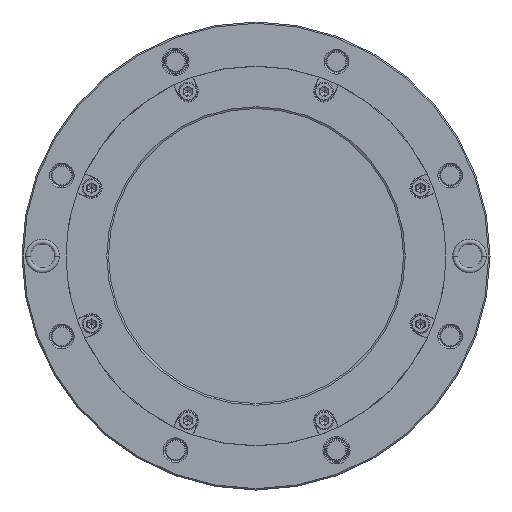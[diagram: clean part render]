
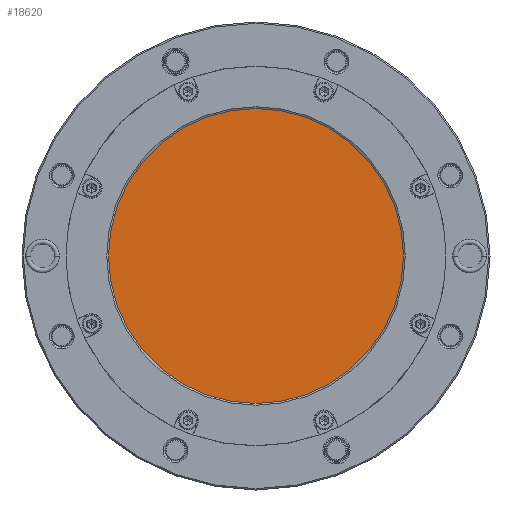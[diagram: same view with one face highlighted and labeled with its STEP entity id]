
A CAD part, front view. The second image highlights one B-rep face of the part: STEP entity #18620.
In plain terms, the highlighted planar face has unit normal (0, -1, 0).
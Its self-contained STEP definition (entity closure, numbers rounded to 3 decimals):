
#17047=CARTESIAN_POINT('',(0.,-28.2,0.));
#17048=DIRECTION('',(0.,-1.,0.));
#17049=DIRECTION('',(-1.,0.,0.));
#17050=AXIS2_PLACEMENT_3D('',#17047,#17048,#17049);
#17060=CARTESIAN_POINT('',(0.,-28.2,0.));
#17061=DIRECTION('',(0.,1.,0.));
#17062=DIRECTION('',(-1.,0.,0.));
#17063=AXIS2_PLACEMENT_3D('',#17060,#17061,#17062);
#18221=CARTESIAN_POINT('',(-43.48,-28.2,0.));
#18223=VERTEX_POINT('',#18221);
#18225=CARTESIAN_POINT('',(43.48,-28.2,0.));
#18227=VERTEX_POINT('',#18225);
#18611=CARTESIAN_POINT('',(0.,-28.2,0.));
#18612=DIRECTION('',(0.,-1.,0.));
#18613=DIRECTION('',(-1.,0.,0.));
#18614=AXIS2_PLACEMENT_3D('',#18611,#18612,#18613);
#18615=PLANE('',#18614);
#18616=ORIENTED_EDGE('',*,*,#18606,.T.);
#18617=ORIENTED_EDGE('',*,*,#18590,.F.);
#18618=EDGE_LOOP('',(#18616,#18617));
#18619=FACE_OUTER_BOUND('',#18618,.F.);
#18620=ADVANCED_FACE('',(#18619),#18615,.T.);
#17051=CIRCLE('',#17050,43.48);
#17064=CIRCLE('',#17063,43.48);
#18590=EDGE_CURVE('',#18223,#18227,#17051,.T.);
#18606=EDGE_CURVE('',#18223,#18227,#17064,.T.);
